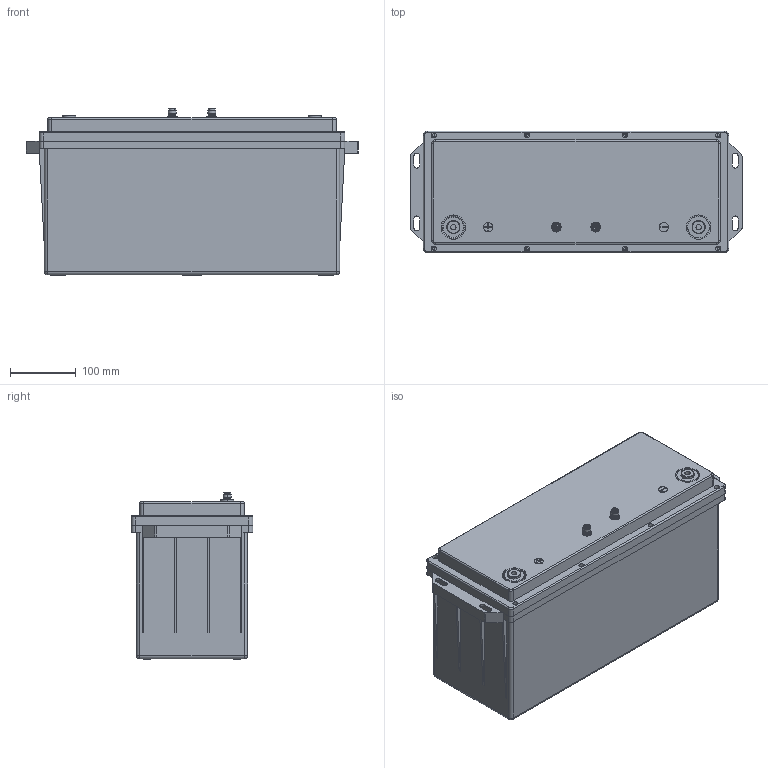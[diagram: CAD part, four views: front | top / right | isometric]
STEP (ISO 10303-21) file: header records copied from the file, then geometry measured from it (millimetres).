
FILE_DESCRIPTION (( 'STEP AP214' ), '1' );
FILE_NAME ('12V-212Ah CAN.stp', '2025-04-19T18:09:07', ( '' ), ( '' ), 'SwSTEP 2.0', 'SolidWorks 2020', '' );
FILE_SCHEMA (( 'AUTOMOTIVE_DESIGN' ));
Length unit declared in the file: millimetre
Products named in the file (6): 09_0433_81_05; 09_0433_81_05_01; 12V-212Ah CAN; 09_0433_81_05_02; G49-3D-01-12-1
Assembly tree (7 placements, depth 3):
  12V-212Ah CAN
    G49-3D-01-12-1
    09_0433_81_05
      09_0433_81_05_01
      09_0433_81_05_02
    09_0433_81_05
      09_0433_81_05_01
      09_0433_81_05_02
Bounding box: 505 x 185 x 253 mm (x, y, z)
Volume: 1858604.4 mm3; surface area: 1015797.5 mm2
Topology: 8 solids, 8 shells, 1220 faces, 3189 edges, 2016 vertices
Faces by surface type: cylinder 496, plane 471, cone 148, bspline 69, sphere 24, torus 12
Entity records: 44291 total; most frequent: CARTESIAN_POINT 9556, DIRECTION 5160, ORIENTED_EDGE 5054, EDGE_CURVE 2527, AXIS2_PLACEMENT_3D 1882, VERTEX_POINT 1627, LINE 1396, VECTOR 1396
